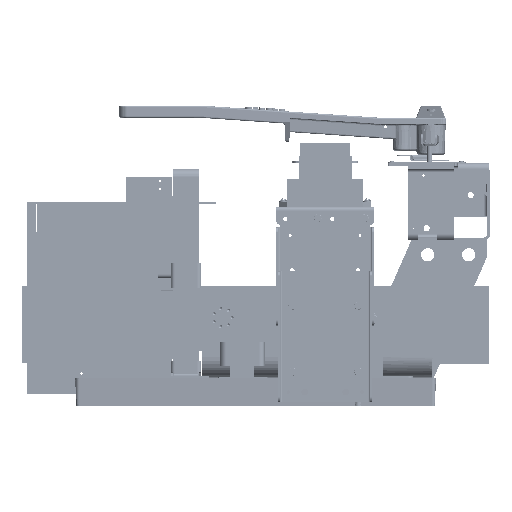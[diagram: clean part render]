
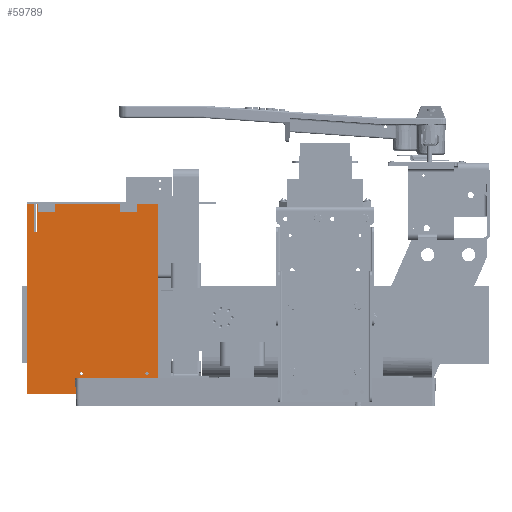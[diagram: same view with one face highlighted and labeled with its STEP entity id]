
A CAD part, left-side view. The second image highlights one B-rep face of the part: STEP entity #59789.
In plain terms, the highlighted planar face has unit normal (-1, 0, 0) as drawn and (0, 0, -1) by its records, which use the part's own axes.
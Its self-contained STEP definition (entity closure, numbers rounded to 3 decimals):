
#3084=FACE_BOUND('',#12660,.T.);
#3085=FACE_BOUND('',#12661,.T.);
#3086=FACE_BOUND('',#12662,.T.);
#3087=FACE_BOUND('',#12663,.T.);
#5000=CIRCLE('',#66190,0.097);
#5002=CIRCLE('',#66193,0.097);
#5004=CIRCLE('',#66196,0.097);
#5006=CIRCLE('',#66199,0.097);
#8847=FACE_OUTER_BOUND('',#12659,.T.);
#12659=EDGE_LOOP('',(#47292,#47293,#47294,#47295,#47296,#47297,#47298,#47299,
#47300,#47301,#47302,#47303));
#12660=EDGE_LOOP('',(#47304));
#12661=EDGE_LOOP('',(#47305));
#12662=EDGE_LOOP('',(#47306));
#12663=EDGE_LOOP('',(#47307));
#17314=LINE('',#96229,#22428);
#17318=LINE('',#96237,#22432);
#17321=LINE('',#96243,#22435);
#17324=LINE('',#96249,#22438);
#17327=LINE('',#96255,#22441);
#17330=LINE('',#96261,#22444);
#17333=LINE('',#96267,#22447);
#17336=LINE('',#96273,#22450);
#17339=LINE('',#96279,#22453);
#17342=LINE('',#96285,#22456);
#17345=LINE('',#96291,#22459);
#17348=LINE('',#96296,#22462);
#22428=VECTOR('',#78129,0.394);
#22432=VECTOR('',#78135,0.394);
#22435=VECTOR('',#78140,0.394);
#22438=VECTOR('',#78145,0.394);
#22441=VECTOR('',#78150,0.394);
#22444=VECTOR('',#78155,0.394);
#22447=VECTOR('',#78160,0.394);
#22450=VECTOR('',#78165,0.394);
#22453=VECTOR('',#78170,0.394);
#22456=VECTOR('',#78175,0.394);
#22459=VECTOR('',#78180,0.394);
#22462=VECTOR('',#78185,0.394);
#27758=VERTEX_POINT('',#96203);
#27760=VERTEX_POINT('',#96209);
#27762=VERTEX_POINT('',#96215);
#27764=VERTEX_POINT('',#96221);
#27766=VERTEX_POINT('',#96227);
#27767=VERTEX_POINT('',#96228);
#27770=VERTEX_POINT('',#96236);
#27772=VERTEX_POINT('',#96242);
#27774=VERTEX_POINT('',#96248);
#27776=VERTEX_POINT('',#96254);
#27778=VERTEX_POINT('',#96260);
#27780=VERTEX_POINT('',#96266);
#27782=VERTEX_POINT('',#96272);
#27784=VERTEX_POINT('',#96278);
#27786=VERTEX_POINT('',#96284);
#27788=VERTEX_POINT('',#96290);
#34667=EDGE_CURVE('',#27758,#27758,#5000,.T.);
#34670=EDGE_CURVE('',#27760,#27760,#5002,.T.);
#34673=EDGE_CURVE('',#27762,#27762,#5004,.T.);
#34676=EDGE_CURVE('',#27764,#27764,#5006,.T.);
#34679=EDGE_CURVE('',#27766,#27767,#17314,.T.);
#34683=EDGE_CURVE('',#27770,#27766,#17318,.T.);
#34686=EDGE_CURVE('',#27772,#27770,#17321,.T.);
#34689=EDGE_CURVE('',#27774,#27772,#17324,.T.);
#34692=EDGE_CURVE('',#27776,#27774,#17327,.T.);
#34695=EDGE_CURVE('',#27778,#27776,#17330,.T.);
#34698=EDGE_CURVE('',#27780,#27778,#17333,.T.);
#34701=EDGE_CURVE('',#27782,#27780,#17336,.T.);
#34704=EDGE_CURVE('',#27784,#27782,#17339,.T.);
#34707=EDGE_CURVE('',#27786,#27784,#17342,.T.);
#34710=EDGE_CURVE('',#27788,#27786,#17345,.T.);
#34713=EDGE_CURVE('',#27767,#27788,#17348,.T.);
#47292=ORIENTED_EDGE('',*,*,#34713,.F.);
#47293=ORIENTED_EDGE('',*,*,#34679,.F.);
#47294=ORIENTED_EDGE('',*,*,#34683,.F.);
#47295=ORIENTED_EDGE('',*,*,#34686,.F.);
#47296=ORIENTED_EDGE('',*,*,#34689,.F.);
#47297=ORIENTED_EDGE('',*,*,#34692,.F.);
#47298=ORIENTED_EDGE('',*,*,#34695,.F.);
#47299=ORIENTED_EDGE('',*,*,#34698,.F.);
#47300=ORIENTED_EDGE('',*,*,#34701,.F.);
#47301=ORIENTED_EDGE('',*,*,#34704,.F.);
#47302=ORIENTED_EDGE('',*,*,#34707,.F.);
#47303=ORIENTED_EDGE('',*,*,#34710,.F.);
#47304=ORIENTED_EDGE('',*,*,#34667,.T.);
#47305=ORIENTED_EDGE('',*,*,#34670,.T.);
#47306=ORIENTED_EDGE('',*,*,#34673,.T.);
#47307=ORIENTED_EDGE('',*,*,#34676,.T.);
#57287=PLANE('',#66214);
#59789=ADVANCED_FACE('',(#8847,#3084,#3085,#3086,#3087),#57287,.F.);
#66190=AXIS2_PLACEMENT_3D('',#96204,#78101,#78102);
#66193=AXIS2_PLACEMENT_3D('',#96210,#78108,#78109);
#66196=AXIS2_PLACEMENT_3D('',#96216,#78115,#78116);
#66199=AXIS2_PLACEMENT_3D('',#96222,#78122,#78123);
#66214=AXIS2_PLACEMENT_3D('',#96299,#78189,#78190);
#78101=DIRECTION('center_axis',(0.,0.,1.));
#78102=DIRECTION('ref_axis',(-1.,0.,0.));
#78108=DIRECTION('center_axis',(0.,0.,1.));
#78109=DIRECTION('ref_axis',(-1.,0.,0.));
#78115=DIRECTION('center_axis',(0.,0.,1.));
#78116=DIRECTION('ref_axis',(-1.,0.,0.));
#78122=DIRECTION('center_axis',(0.,0.,1.));
#78123=DIRECTION('ref_axis',(-1.,0.,0.));
#78129=DIRECTION('',(1.,0.,0.));
#78135=DIRECTION('',(0.,1.,0.));
#78140=DIRECTION('',(1.,0.,0.));
#78145=DIRECTION('',(0.,-1.,0.));
#78150=DIRECTION('',(-1.,0.,0.));
#78155=DIRECTION('',(0.,-1.,0.));
#78160=DIRECTION('',(1.,0.,0.));
#78165=DIRECTION('',(0.,-1.,0.));
#78170=DIRECTION('',(-1.,0.,0.));
#78175=DIRECTION('',(0.,1.,0.));
#78180=DIRECTION('',(1.,0.,0.));
#78185=DIRECTION('',(0.,-1.,0.));
#78189=DIRECTION('center_axis',(0.,0.,1.));
#78190=DIRECTION('ref_axis',(1.,0.,0.));
#96203=CARTESIAN_POINT('',(0.347,2.,0.));
#96204=CARTESIAN_POINT('Origin',(0.25,2.,0.));
#96209=CARTESIAN_POINT('',(0.347,7.,0.));
#96210=CARTESIAN_POINT('Origin',(0.25,7.,0.));
#96215=CARTESIAN_POINT('',(10.472,0.688,0.));
#96216=CARTESIAN_POINT('Origin',(10.375,0.688,0.));
#96221=CARTESIAN_POINT('',(10.472,4.688,0.));
#96222=CARTESIAN_POINT('Origin',(10.375,4.688,0.));
#96227=CARTESIAN_POINT('',(10.625,5.094,0.));
#96228=CARTESIAN_POINT('',(11.156,5.094,0.));
#96229=CARTESIAN_POINT('',(10.625,5.094,0.));
#96236=CARTESIAN_POINT('',(10.625,0.,0.));
#96237=CARTESIAN_POINT('',(10.625,0.,0.));
#96242=CARTESIAN_POINT('',(0.,0.,0.));
#96243=CARTESIAN_POINT('',(0.,0.,0.));
#96248=CARTESIAN_POINT('',(0.,7.422,0.));
#96249=CARTESIAN_POINT('',(0.,7.422,0.));
#96254=CARTESIAN_POINT('',(1.75,7.422,0.));
#96255=CARTESIAN_POINT('',(1.75,7.422,0.));
#96260=CARTESIAN_POINT('',(1.75,7.578,0.));
#96261=CARTESIAN_POINT('',(1.75,7.578,0.));
#96266=CARTESIAN_POINT('',(0.,7.578,0.));
#96267=CARTESIAN_POINT('',(0.,7.578,0.));
#96272=CARTESIAN_POINT('',(0.,8.,0.));
#96273=CARTESIAN_POINT('',(0.,8.,0.));
#96278=CARTESIAN_POINT('',(11.625,8.,0.));
#96279=CARTESIAN_POINT('',(11.625,8.,0.));
#96284=CARTESIAN_POINT('',(11.625,4.719,0.));
#96285=CARTESIAN_POINT('',(11.625,4.719,0.));
#96290=CARTESIAN_POINT('',(11.156,4.719,0.));
#96291=CARTESIAN_POINT('',(11.156,4.719,0.));
#96296=CARTESIAN_POINT('',(11.156,5.094,0.));
#96299=CARTESIAN_POINT('Origin',(5.401,4.41,0.));
